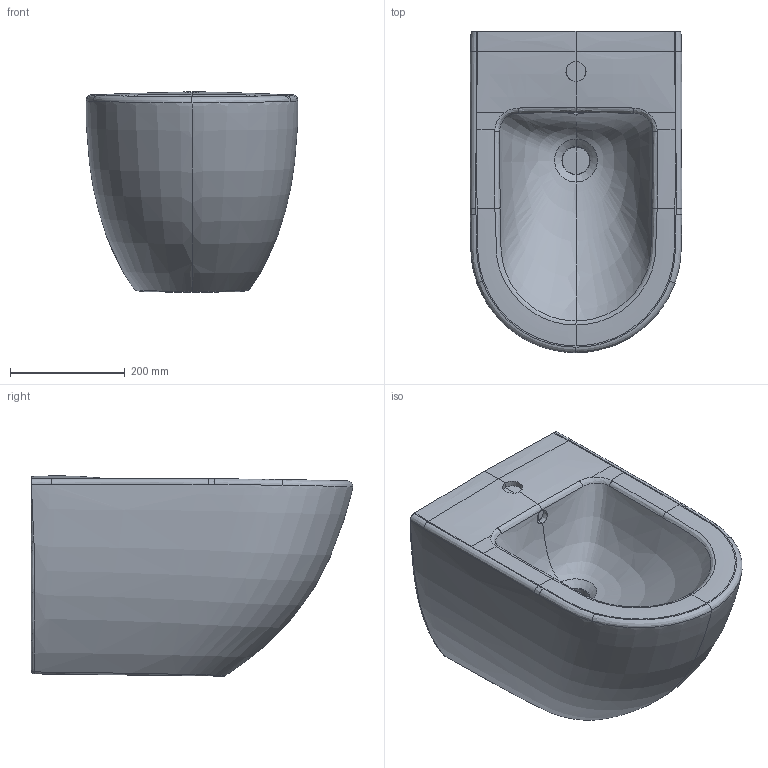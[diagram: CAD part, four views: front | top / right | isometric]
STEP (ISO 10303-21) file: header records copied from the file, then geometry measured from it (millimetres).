
FILE_DESCRIPTION(/* description */ (''),/* implementation_level */ '2;1');
FILE_NAME(/* name */ '740000_Subway_WBD.stp',/* time_stamp */ '2019-03-01T07:58:13+01:00',/* author */ (''),/* organization */ (''),/* preprocessor_version */ 'ST-DEVELOPER v16',/* originating_system */ 'SIEMENS PLM Software NX 10.0',/* authorisation */ '');
FILE_SCHEMA (('AUTOMOTIVE_DESIGN { 1 0 10303 214 3 1 1 1 }'));
Length unit declared in the file: millimetre
Products named in the file (1): Sier1198C463oar0
Bounding box: 368.77 x 560 x 348.93 mm (x, y, z)
Volume: 42941354.2 mm3; surface area: 848318.5 mm2
Topology: 1 solids, 1 shells, 66 faces, 164 edges, 98 vertices
Faces by surface type: bspline 44, plane 8, extrusion 6, cylinder 4, torus 2, cone 2
Entity records: 13998 total; most frequent: CARTESIAN_POINT 12825, ORIENTED_EDGE 324, EDGE_CURVE 162, B_SPLINE_CURVE_WITH_KNOTS 106, DIRECTION 102, VERTEX_POINT 98, ADVANCED_FACE 66, FACE_OUTER_BOUND 66
